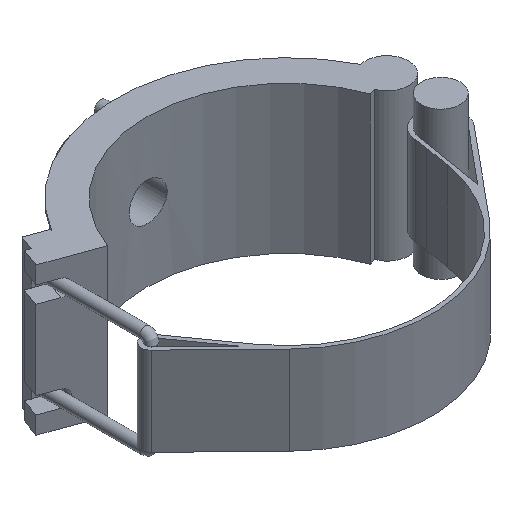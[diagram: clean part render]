
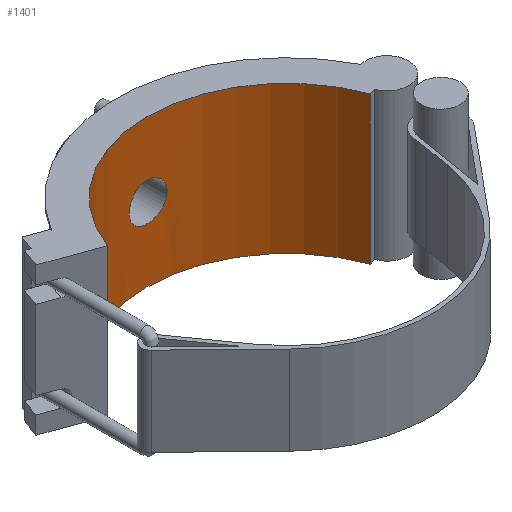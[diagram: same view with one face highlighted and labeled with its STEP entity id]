
A CAD part, isometric view. The second image highlights one B-rep face of the part: STEP entity #1401.
In plain terms, the highlighted cylindrical face has radius 166.9 mm (diameter 333.8 mm), a partial arc.
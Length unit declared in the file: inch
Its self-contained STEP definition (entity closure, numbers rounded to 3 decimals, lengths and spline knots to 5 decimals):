
#31=B_SPLINE_CURVE_WITH_KNOTS('',3,(#2500,#2501,#2502,#2503,#2504,#2505,
#2506,#2507,#2508,#2509,#2510,#2511,#2512,#2513,#2514,#2515,#2516,#2517,
#2518,#2519,#2520,#2521,#2522,#2523,#2524,#2525,#2526,#2527,#2528,#2529,
#2530,#2531,#2532,#2533,#2534,#2535,#2536,#2537,#2538,#2539,#2540,#2541,
#2542,#2543,#2544,#2545,#2546,#2547,#2548,#2549,#2550,#2551,#2552,#2553,
#2554,#2555,#2556,#2557,#2558,#2559,#2560,#2561,#2562,#2563,#2564,#2565),
 .UNSPECIFIED.,.T.,.F.,(4,2,2,2,2,2,2,2,2,2,2,2,2,2,2,2,2,2,2,2,2,2,2,2,
2,2,2,2,2,2,2,2,4),(0.,0.4274,0.8548,1.2822,
1.7096,2.137,2.5644,2.99179,3.41919,
3.84659,4.27398,4.70138,5.12877,5.55617,
5.98358,6.41098,6.83838,7.26578,7.69318,
8.12058,8.54798,8.97538,9.40278,9.83017,
10.25757,10.68496,11.11236,11.53976,11.96715,
12.39455,12.82195,13.24936,13.67676),
 .UNSPECIFIED.);
#56=CYLINDRICAL_SURFACE('',#1553,6.57087);
#81=FACE_BOUND('',#305,.T.);
#127=CIRCLE('',#1519,6.57087);
#138=CIRCLE('',#1551,6.57087);
#213=FACE_OUTER_BOUND('',#304,.T.);
#304=EDGE_LOOP('',(#1213,#1214,#1215,#1216));
#305=EDGE_LOOP('',(#1217));
#362=LINE('',#2154,#476);
#436=LINE('',#2497,#550);
#476=VECTOR('',#1694,0.3937);
#550=VECTOR('',#1912,0.3937);
#613=VERTEX_POINT('',#2151);
#614=VERTEX_POINT('',#2153);
#655=VERTEX_POINT('',#2286);
#671=VERTEX_POINT('',#2493);
#672=VERTEX_POINT('',#2499);
#751=EDGE_CURVE('',#614,#613,#362,.T.);
#820=EDGE_CURVE('',#614,#655,#127,.T.);
#857=EDGE_CURVE('',#671,#613,#138,.T.);
#858=EDGE_CURVE('',#671,#655,#436,.T.);
#859=EDGE_CURVE('',#672,#672,#31,.T.);
#1213=ORIENTED_EDGE('',*,*,#858,.T.);
#1214=ORIENTED_EDGE('',*,*,#820,.F.);
#1215=ORIENTED_EDGE('',*,*,#751,.T.);
#1216=ORIENTED_EDGE('',*,*,#857,.F.);
#1217=ORIENTED_EDGE('',*,*,#859,.T.);
#1401=ADVANCED_FACE('',(#213,#81),#56,.F.);
#1519=AXIS2_PLACEMENT_3D('',#2287,#1824,#1825);
#1551=AXIS2_PLACEMENT_3D('',#2495,#1908,#1909);
#1553=AXIS2_PLACEMENT_3D('',#2498,#1913,#1914);
#1694=DIRECTION('',(0.,0.,-1.));
#1824=DIRECTION('center_axis',(0.,0.,-1.));
#1825=DIRECTION('ref_axis',(-1.,0.,0.));
#1908=DIRECTION('center_axis',(0.,0.,1.));
#1909=DIRECTION('ref_axis',(-1.,0.,0.));
#1912=DIRECTION('',(0.,0.,1.));
#1913=DIRECTION('center_axis',(0.,0.,1.));
#1914=DIRECTION('ref_axis',(-1.,0.,0.));
#2151=CARTESIAN_POINT('',(-6.17459,2.24737,-3.465));
#2153=CARTESIAN_POINT('',(-6.17459,2.24737,3.465));
#2154=CARTESIAN_POINT('',(-6.17459,2.24737,0.));
#2286=CARTESIAN_POINT('',(6.17459,2.24737,3.465));
#2287=CARTESIAN_POINT('Origin',(0.,0.,3.465));
#2493=CARTESIAN_POINT('',(6.17459,2.24737,-3.465));
#2495=CARTESIAN_POINT('Origin',(0.,0.,-3.465));
#2497=CARTESIAN_POINT('',(6.17459,2.24737,0.));
#2498=CARTESIAN_POINT('Origin',(0.,0.,0.));
#2499=CARTESIAN_POINT('',(0.89222,6.51001,0.));
#2500=CARTESIAN_POINT('Ctrl Pts',(0.89222,6.51001,0.));
#2501=CARTESIAN_POINT('Ctrl Pts',(0.89222,6.51001,-0.05609));
#2502=CARTESIAN_POINT('Ctrl Pts',(0.88685,6.51075,-0.11407));
#2503=CARTESIAN_POINT('Ctrl Pts',(0.86423,6.51379,-0.22937));
#2504=CARTESIAN_POINT('Ctrl Pts',(0.847,6.51609,-0.28668));
#2505=CARTESIAN_POINT('Ctrl Pts',(0.80145,6.52185,-0.39658));
#2506=CARTESIAN_POINT('Ctrl Pts',(0.7731,6.52531,-0.44924));
#2507=CARTESIAN_POINT('Ctrl Pts',(0.70761,6.53274,-0.54662));
#2508=CARTESIAN_POINT('Ctrl Pts',(0.67046,6.53669,-0.59133));
#2509=CARTESIAN_POINT('Ctrl Pts',(0.59133,6.54433,-0.67046));
#2510=CARTESIAN_POINT('Ctrl Pts',(0.54662,6.54827,-0.70761));
#2511=CARTESIAN_POINT('Ctrl Pts',(0.44924,6.55567,-0.7731));
#2512=CARTESIAN_POINT('Ctrl Pts',(0.39658,6.55912,-0.80145));
#2513=CARTESIAN_POINT('Ctrl Pts',(0.28668,6.56484,-0.847));
#2514=CARTESIAN_POINT('Ctrl Pts',(0.22937,6.56711,-0.86423));
#2515=CARTESIAN_POINT('Ctrl Pts',(0.11407,6.57013,-0.88685));
#2516=CARTESIAN_POINT('Ctrl Pts',(0.05609,6.57087,-0.89222));
#2517=CARTESIAN_POINT('Ctrl Pts',(-0.05609,6.57087,
-0.89222));
#2518=CARTESIAN_POINT('Ctrl Pts',(-0.11407,6.57013,-0.88685));
#2519=CARTESIAN_POINT('Ctrl Pts',(-0.22937,6.56711,-0.86423));
#2520=CARTESIAN_POINT('Ctrl Pts',(-0.28668,6.56484,-0.847));
#2521=CARTESIAN_POINT('Ctrl Pts',(-0.39658,6.55912,-0.80145));
#2522=CARTESIAN_POINT('Ctrl Pts',(-0.44924,6.55567,-0.7731));
#2523=CARTESIAN_POINT('Ctrl Pts',(-0.54662,6.54827,-0.70761));
#2524=CARTESIAN_POINT('Ctrl Pts',(-0.59133,6.54433,-0.67046));
#2525=CARTESIAN_POINT('Ctrl Pts',(-0.67046,6.53669,-0.59133));
#2526=CARTESIAN_POINT('Ctrl Pts',(-0.70761,6.53274,-0.54662));
#2527=CARTESIAN_POINT('Ctrl Pts',(-0.7731,6.52531,-0.44924));
#2528=CARTESIAN_POINT('Ctrl Pts',(-0.80145,6.52185,-0.39658));
#2529=CARTESIAN_POINT('Ctrl Pts',(-0.847,6.51609,-0.28668));
#2530=CARTESIAN_POINT('Ctrl Pts',(-0.86423,6.51379,-0.22937));
#2531=CARTESIAN_POINT('Ctrl Pts',(-0.88685,6.51075,-0.11407));
#2532=CARTESIAN_POINT('Ctrl Pts',(-0.89222,6.51001,-0.05609));
#2533=CARTESIAN_POINT('Ctrl Pts',(-0.89222,6.51001,0.05609));
#2534=CARTESIAN_POINT('Ctrl Pts',(-0.88685,6.51075,0.11407));
#2535=CARTESIAN_POINT('Ctrl Pts',(-0.86423,6.51379,0.22937));
#2536=CARTESIAN_POINT('Ctrl Pts',(-0.847,6.51609,0.28668));
#2537=CARTESIAN_POINT('Ctrl Pts',(-0.80145,6.52185,0.39658));
#2538=CARTESIAN_POINT('Ctrl Pts',(-0.7731,6.52531,0.44924));
#2539=CARTESIAN_POINT('Ctrl Pts',(-0.70761,6.53274,0.54662));
#2540=CARTESIAN_POINT('Ctrl Pts',(-0.67046,6.53669,0.59133));
#2541=CARTESIAN_POINT('Ctrl Pts',(-0.59133,6.54433,0.67046));
#2542=CARTESIAN_POINT('Ctrl Pts',(-0.54662,6.54827,0.70761));
#2543=CARTESIAN_POINT('Ctrl Pts',(-0.44924,6.55567,0.7731));
#2544=CARTESIAN_POINT('Ctrl Pts',(-0.39658,6.55912,0.80145));
#2545=CARTESIAN_POINT('Ctrl Pts',(-0.28668,6.56484,0.847));
#2546=CARTESIAN_POINT('Ctrl Pts',(-0.22937,6.56711,0.86423));
#2547=CARTESIAN_POINT('Ctrl Pts',(-0.11407,6.57013,0.88685));
#2548=CARTESIAN_POINT('Ctrl Pts',(-0.05609,6.57087,
0.89222));
#2549=CARTESIAN_POINT('Ctrl Pts',(0.05609,6.57087,0.89222));
#2550=CARTESIAN_POINT('Ctrl Pts',(0.11407,6.57013,0.88685));
#2551=CARTESIAN_POINT('Ctrl Pts',(0.22937,6.56711,0.86423));
#2552=CARTESIAN_POINT('Ctrl Pts',(0.28668,6.56484,0.847));
#2553=CARTESIAN_POINT('Ctrl Pts',(0.39658,6.55912,0.80145));
#2554=CARTESIAN_POINT('Ctrl Pts',(0.44924,6.55567,0.7731));
#2555=CARTESIAN_POINT('Ctrl Pts',(0.54662,6.54827,0.70761));
#2556=CARTESIAN_POINT('Ctrl Pts',(0.59133,6.54433,0.67046));
#2557=CARTESIAN_POINT('Ctrl Pts',(0.67046,6.53669,0.59133));
#2558=CARTESIAN_POINT('Ctrl Pts',(0.70761,6.53274,0.54662));
#2559=CARTESIAN_POINT('Ctrl Pts',(0.7731,6.52531,0.44924));
#2560=CARTESIAN_POINT('Ctrl Pts',(0.80145,6.52185,0.39658));
#2561=CARTESIAN_POINT('Ctrl Pts',(0.847,6.51609,0.28668));
#2562=CARTESIAN_POINT('Ctrl Pts',(0.86423,6.51379,0.22937));
#2563=CARTESIAN_POINT('Ctrl Pts',(0.88685,6.51075,0.11407));
#2564=CARTESIAN_POINT('Ctrl Pts',(0.89222,6.51001,0.05609));
#2565=CARTESIAN_POINT('Ctrl Pts',(0.89222,6.51001,0.));
